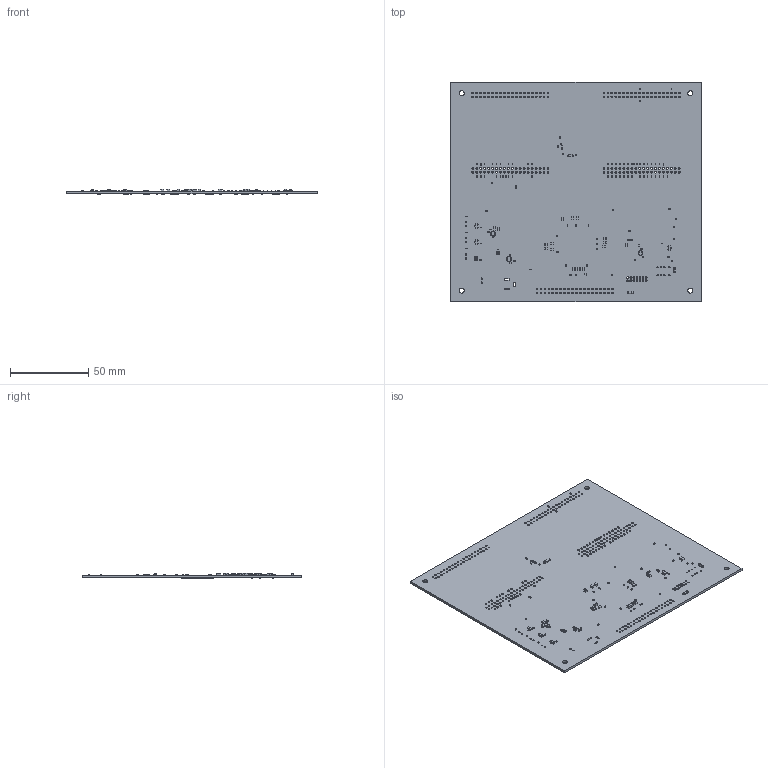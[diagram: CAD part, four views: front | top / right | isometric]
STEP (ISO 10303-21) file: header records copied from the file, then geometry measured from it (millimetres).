
FILE_DESCRIPTION(('KiCad electronic assembly'),'2;1');
FILE_NAME('Thales_Flashprogrammer_Hauptplatine.step', '2024-09-04T14:59:08',('Pcbnew'),('Kicad'), 'Open CASCADE STEP processor 7.5','KiCad to STEP converter','Unknown' );
FILE_SCHEMA(('AUTOMOTIVE_DESIGN { 1 0 10303 214 1 1 1 1 }'));
Length unit declared in the file: millimetre
Products named in the file (18): Thales_Flashprogrammer_Hauptplatine 1; D_MiniMELF; D_MiniMELF_Standard; C_0402_1005Metric; R_0402_1005Metric; C_0603_1608Metric; C_0805_2012Metric; D_SOD-123; D_SOD_123; TSOT-23-6; TSOT_23_6; SOT-23; SOT_23; Thales_Flashprogrammer_v3 PCB
Assembly tree (326 placements, depth 3):
  Thales_Flashprogrammer_Hauptplatine 1
    D_MiniMELF  x2
      D_MiniMELF_Standard
    C_0402_1005Metric  x162
      C_0402_1005Metric
    R_0402_1005Metric  x122
      R_0402_1005Metric
    C_0603_1608Metric  x9
      C_0603_1608Metric
    C_0805_2012Metric  x14
      C_0805_2012Metric
    D_SOD-123
      D_SOD_123
    TSOT-23-6  x3
      TSOT_23_6
    SOT-23  x4
      SOT_23
    Thales_Flashprogrammer_v3 PCB
Bounding box: 160 x 140 x 3.6 mm (x, y, z)
Volume: 35630.5 mm3; surface area: 47664.7 mm2
Topology: 318 solids, 318 shells, 9435 faces, 24420 edges, 16000 vertices
Faces by surface type: plane 5637, cylinder 3570, bspline 224, revolution 4
Full cylindrical faces by diameter (mm): 0.762 x8, 0.87 x8, 0.9 x2, 1 x14, 1.02 x200, 1.35 x4, 1.4 x6, 3.2 x4
Entity records: 54569 total; most frequent: CARTESIAN_POINT 12076, DIRECTION 7279, LINE 3961, VECTOR 3961, ORIENTED_EDGE 3786, PCURVE 3786, DEFINITIONAL_REPRESENTATION 3786, EDGE_CURVE 1893
